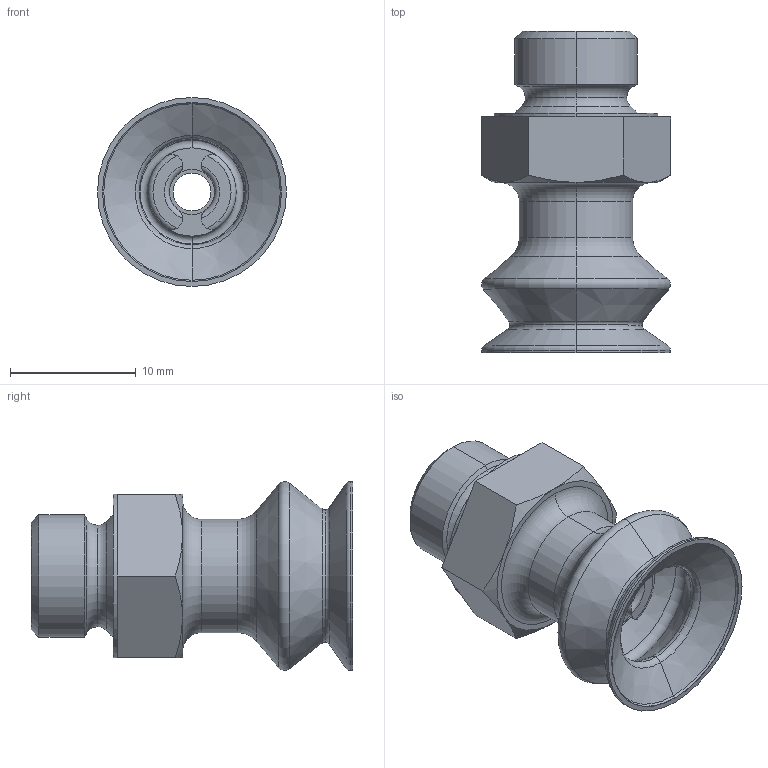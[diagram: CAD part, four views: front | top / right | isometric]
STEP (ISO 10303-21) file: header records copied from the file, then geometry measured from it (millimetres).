
FILE_DESCRIPTION (( 'STEP AP203' ), '1' );
FILE_NAME ('ZASB-15-1_8-SI.STEP', '2022-03-14T17:58:43', ( '' ), ( '' ), 'SwSTEP 2.0', 'SolidWorks 2019', '' );
FILE_SCHEMA (( 'CONFIG_CONTROL_DESIGN' ));
Length unit declared in the file: millimetre
Products named in the file (1): ZASB-15-1_8-SI
Bounding box: 15.01 x 25.5 x 15 mm (x, y, z)
Volume: 1902.1 mm3; surface area: 1864.9 mm2
Topology: 1 solids, 1 shells, 97 faces, 214 edges, 122 vertices
Faces by surface type: torus 30, cone 24, cylinder 22, plane 21
Entity records: 2861 total; most frequent: CARTESIAN_POINT 596, DIRECTION 518, ORIENTED_EDGE 428, AXIS2_PLACEMENT_3D 228, EDGE_CURVE 214, CIRCLE 130, VERTEX_POINT 122, EDGE_LOOP 102
